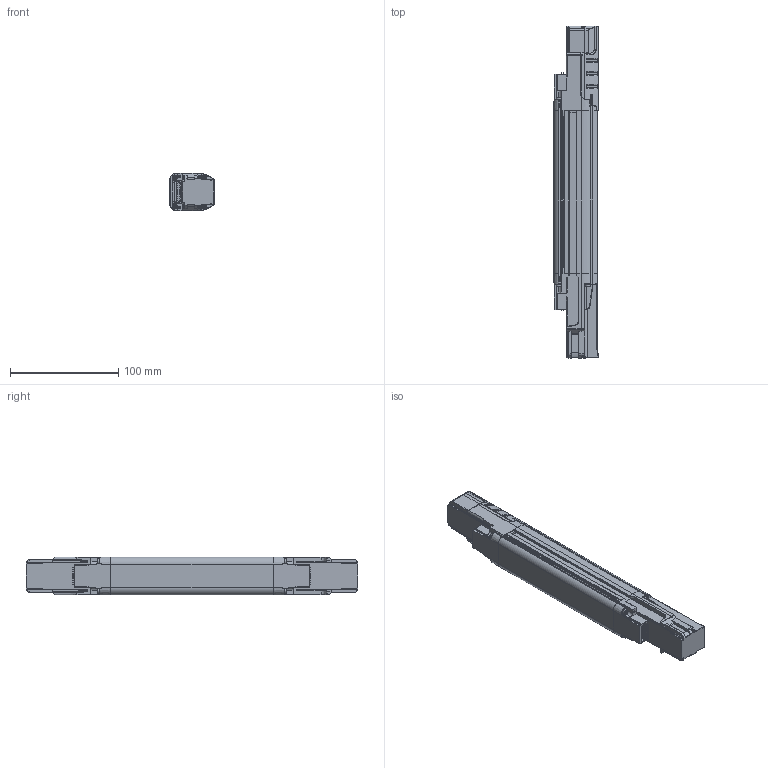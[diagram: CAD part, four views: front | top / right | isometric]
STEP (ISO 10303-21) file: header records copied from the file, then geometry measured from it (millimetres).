
FILE_DESCRIPTION(/* description */ (''),/* implementation_level */ '2;1');
FILE_NAME(/* name */ 'DSD-0467.stp',/* time_stamp */ '2020-07-17T13:12:12+02:00',/* author */ (''),/* organization */ (''),/* preprocessor_version */ 'ST-DEVELOPER v16.7',/* originating_system */ 'SIEMENS PLM Software NX 12.0',/* authorisation */ '');
FILE_SCHEMA (('AUTOMOTIVE_DESIGN { 1 0 10303 214 3 1 1 1 }'));
Products named in the file (1): FGut24088636ltvu
Bounding box: 40.75 x 306.2 x 35.01 mm (x, y, z)
Surface area: 55942.9 mm2 (no closed solid volume)
Topology: 0 solids, 1156 shells, 1156 faces, 6725 edges, 6683 vertices
Faces by surface type: plane 643, cylinder 291, bspline 88, cone 85, torus 41, sphere 8
Full cylindrical faces by diameter (mm): 1.6 x4, 1.65 x2, 1.7 x2, 4.5 x6
Entity records: 80120 total; most frequent: CARTESIAN_POINT 26691, DIRECTION 6791, VERTEX_POINT 6636, ORIENTED_EDGE 6630, EDGE_CURVE 6630, LINE 3169, VECTOR 3169, B_SPLINE_CURVE_WITH_KNOTS 2473
